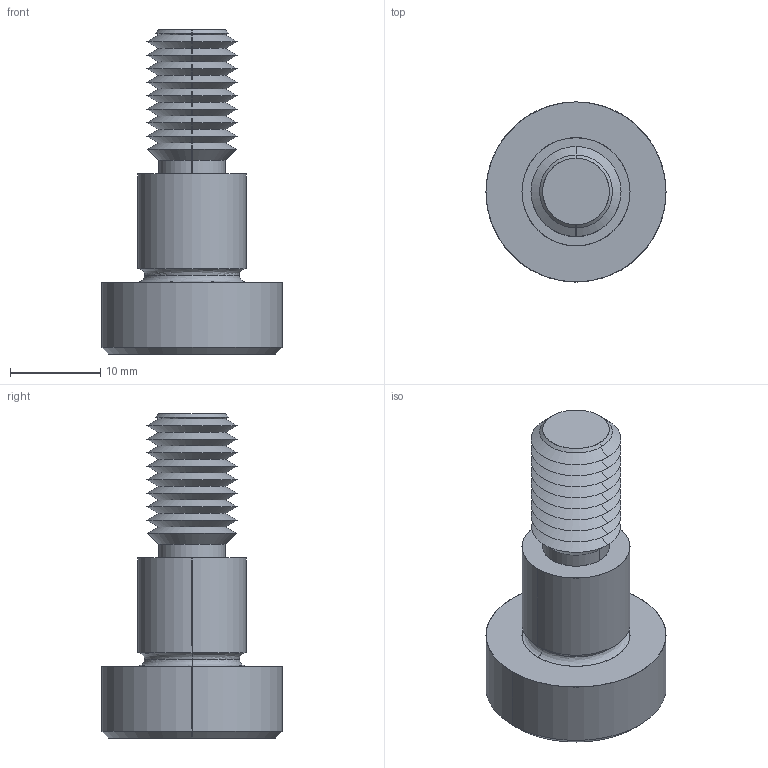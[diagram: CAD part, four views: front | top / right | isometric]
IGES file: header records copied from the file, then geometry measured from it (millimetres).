
Start section: SolidWorks IGES file using analytic representation for surfaces
Global section: file name: C:\Users\IanO\Documents\Temp Folder\GENERAL\SCREW REVISION\P0130_v2\P0130.T5_v2_20220106_IGES\P0130.120-012-T5.igs; native system: SolidWorks 2019; preprocessor: SolidWorks 2019; author: IanO; date: 220106.224501; units: millimetre
Bounding box: 20 x 20 x 36 mm (x, y, z)
Surface area: 2506.8 mm2 (no closed solid volume)
Topology: 0 solids, 0 shells, 76 faces, 564 edges, 562 vertices
Faces by surface type: revolution 56, bspline 20
